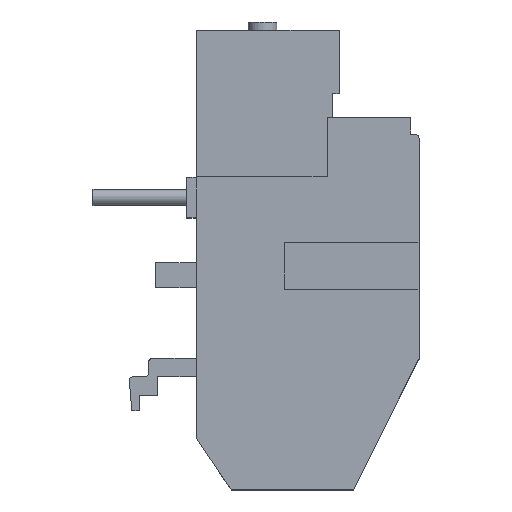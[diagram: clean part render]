
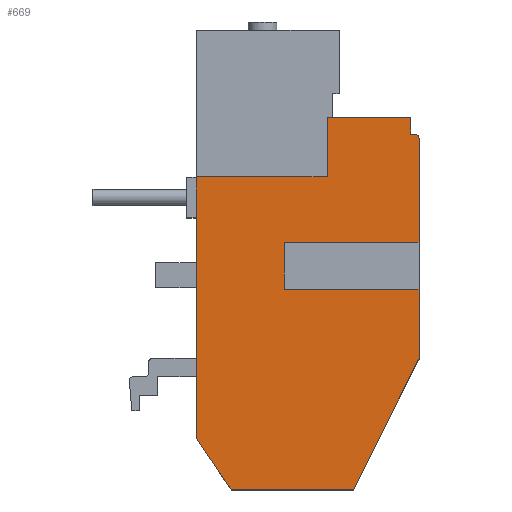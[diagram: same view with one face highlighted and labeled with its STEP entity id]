
A CAD part, top view. The second image highlights one B-rep face of the part: STEP entity #669.
In plain terms, the highlighted planar face has unit normal (0, 0, 1).
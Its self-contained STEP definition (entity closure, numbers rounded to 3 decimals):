
#19 = VERTEX_POINT ( 'NONE', #272 ) ;
#87 = VERTEX_POINT ( 'NONE', #340 ) ;
#132 = VERTEX_POINT ( 'NONE', #385 ) ;
#137 = VERTEX_POINT ( 'NONE', #390 ) ;
#174 = VERTEX_POINT ( 'NONE', #427 ) ;
#186 = VERTEX_POINT ( 'NONE', #439 ) ;
#199 = VERTEX_POINT ( 'NONE', #452 ) ;
#217 = VERTEX_POINT ( 'NONE', #470 ) ;
#229 = VERTEX_POINT ( 'NONE', #482 ) ;
#232 = VERTEX_POINT ( 'NONE', #485 ) ;
#272 = CARTESIAN_POINT ( 'NONE',  ( 0., -36., 70. ) ) ;
#340 = CARTESIAN_POINT ( 'NONE',  ( 0., -100., 70. ) ) ;
#385 = CARTESIAN_POINT ( 'NONE',  ( 8.5, -112.5, 70. ) ) ;
#390 = CARTESIAN_POINT ( 'NONE',  ( 38.5, -112.5, 70. ) ) ;
#427 = CARTESIAN_POINT ( 'NONE',  ( 52.5, -21.5, 70. ) ) ;
#439 = CARTESIAN_POINT ( 'NONE',  ( 32., -21.5, 70. ) ) ;
#452 = CARTESIAN_POINT ( 'NONE',  ( 54.5, -63.5, 70. ) ) ;
#470 = CARTESIAN_POINT ( 'NONE',  ( 54.5, -80.5, 70. ) ) ;
#482 = CARTESIAN_POINT ( 'NONE',  ( 54.5, -52., 70. ) ) ;
#485 = CARTESIAN_POINT ( 'NONE',  ( 54.5, -26.5, 70. ) ) ;
#578 = EDGE_CURVE ( 'NONE', #19, #87, #3257, .T. ) ;
#611 = EDGE_CURVE ( 'NONE', #132, #137, #3321, .T. ) ;
#669 = ADVANCED_FACE ( 'NONE', ( #3436 ), #3936, .T. ) ;
#728 = VERTEX_POINT ( 'NONE', #4304 ) ;
#729 = VERTEX_POINT ( 'NONE', #4310 ) ;
#730 = VERTEX_POINT ( 'NONE', #4311 ) ;
#731 = VERTEX_POINT ( 'NONE', #4312 ) ;
#732 = VERTEX_POINT ( 'NONE', #4313 ) ;
#997 = EDGE_LOOP ( 'NONE', ( #1447, #1448, #1449, #1450, #1451, #1452, #1453, #1454, #1455, #1456, #1457, #1458, #1459, #1460, #1461 ) ) ;
#1447 = ORIENTED_EDGE ( 'NONE', *, *, #1748, .T. ) ;
#1448 = ORIENTED_EDGE ( 'NONE', *, *, #1785, .T. ) ;
#1449 = ORIENTED_EDGE ( 'NONE', *, *, #1786, .F. ) ;
#1450 = ORIENTED_EDGE ( 'NONE', *, *, #1787, .F. ) ;
#1451 = ORIENTED_EDGE ( 'NONE', *, *, #1625, .T. ) ;
#1452 = ORIENTED_EDGE ( 'NONE', *, *, #1788, .F. ) ;
#1453 = ORIENTED_EDGE ( 'NONE', *, *, #1789, .T. ) ;
#1454 = ORIENTED_EDGE ( 'NONE', *, *, #578, .T. ) ;
#1455 = ORIENTED_EDGE ( 'NONE', *, *, #1661, .T. ) ;
#1456 = ORIENTED_EDGE ( 'NONE', *, *, #611, .T. ) ;
#1457 = ORIENTED_EDGE ( 'NONE', *, *, #1733, .T. ) ;
#1458 = ORIENTED_EDGE ( 'NONE', *, *, #1752, .T. ) ;
#1459 = ORIENTED_EDGE ( 'NONE', *, *, #1790, .F. ) ;
#1460 = ORIENTED_EDGE ( 'NONE', *, *, #1791, .F. ) ;
#1461 = ORIENTED_EDGE ( 'NONE', *, *, #1792, .T. ) ;
#1625 = EDGE_CURVE ( 'NONE', #174, #186, #4766, .T. ) ;
#1661 = EDGE_CURVE ( 'NONE', #87, #132, #4832, .T. ) ;
#1733 = EDGE_CURVE ( 'NONE', #137, #217, #4951, .T. ) ;
#1748 = EDGE_CURVE ( 'NONE', #229, #232, #4981, .T. ) ;
#1752 = EDGE_CURVE ( 'NONE', #217, #199, #4987, .T. ) ;
#1785 = EDGE_CURVE ( 'NONE', #232, #728, #5051, .T. ) ;
#1786 = EDGE_CURVE ( 'NONE', #731, #728, #5053, .T. ) ;
#1787 = EDGE_CURVE ( 'NONE', #174, #731, #5049, .T. ) ;
#1788 = EDGE_CURVE ( 'NONE', #730, #186, #5056, .T. ) ;
#1789 = EDGE_CURVE ( 'NONE', #730, #19, #5054, .T. ) ;
#1790 = EDGE_CURVE ( 'NONE', #732, #199, #5060, .T. ) ;
#1791 = EDGE_CURVE ( 'NONE', #729, #732, #5062, .T. ) ;
#1792 = EDGE_CURVE ( 'NONE', #729, #229, #5058, .T. ) ;
#2643 = AXIS2_PLACEMENT_3D ( 'NONE', #3933, #3938, #3939 ) ;
#3257 = LINE ( 'NONE', #3684, #3262 ) ;
#3262 = VECTOR ( 'NONE', #3689, 1000. ) ;
#3321 = LINE ( 'NONE', #3746, #3328 ) ;
#3328 = VECTOR ( 'NONE', #3753, 1000. ) ;
#3436 = FACE_OUTER_BOUND ( 'NONE', #997, .T. ) ;
#3684 = CARTESIAN_POINT ( 'NONE',  ( 0., 0., 70. ) ) ;
#3689 = DIRECTION ( 'NONE',  ( 0., -1., 0. ) ) ;
#3746 = CARTESIAN_POINT ( 'NONE',  ( 8.5, -112.5, 70. ) ) ;
#3753 = DIRECTION ( 'NONE',  ( 1., 0., 0. ) ) ;
#3933 = CARTESIAN_POINT ( 'NONE',  ( 0., 0., 70. ) ) ;
#3936 = PLANE ( 'NONE',  #2643 ) ;
#3938 = DIRECTION ( 'NONE',  ( 0., 0., 1. ) ) ;
#3939 = DIRECTION ( 'NONE',  ( 1., 0., 0. ) ) ;
#4141 = AXIS2_PLACEMENT_3D ( 'NONE', #5492, #5493, #5494 ) ;
#4304 = CARTESIAN_POINT ( 'NONE',  ( 53.5, -25.5, 70. ) ) ;
#4310 = CARTESIAN_POINT ( 'NONE',  ( 21.5, -52., 70. ) ) ;
#4311 = CARTESIAN_POINT ( 'NONE',  ( 32., -36., 70. ) ) ;
#4312 = CARTESIAN_POINT ( 'NONE',  ( 52.5, -25.5, 70. ) ) ;
#4313 = CARTESIAN_POINT ( 'NONE',  ( 21.5, -63.5, 70. ) ) ;
#4550 = CARTESIAN_POINT ( 'NONE',  ( 54.5, -21.5, 70. ) ) ;
#4551 = DIRECTION ( 'NONE',  ( -1., 0., 0. ) ) ;
#4628 = CARTESIAN_POINT ( 'NONE',  ( 0., -100., 70. ) ) ;
#4629 = DIRECTION ( 'NONE',  ( 0.562, -0.827, 0. ) ) ;
#4766 = LINE ( 'NONE', #4550, #4769 ) ;
#4769 = VECTOR ( 'NONE', #4551, 1000. ) ;
#4832 = LINE ( 'NONE', #4628, #4835 ) ;
#4835 = VECTOR ( 'NONE', #4629, 1000. ) ;
#4951 = LINE ( 'NONE', #5382, #4954 ) ;
#4954 = VECTOR ( 'NONE', #5383, 1000. ) ;
#4981 = LINE ( 'NONE', #5412, #4984 ) ;
#4984 = VECTOR ( 'NONE', #5413, 1000. ) ;
#4987 = LINE ( 'NONE', #5415, #4992 ) ;
#4992 = VECTOR ( 'NONE', #5421, 1000. ) ;
#5049 = LINE ( 'NONE', #5491, #5057 ) ;
#5051 = CIRCLE ( 'NONE', #4141, 1. ) ;
#5053 = LINE ( 'NONE', #5488, #5055 ) ;
#5054 = LINE ( 'NONE', #5490, #5061 ) ;
#5055 = VECTOR ( 'NONE', #5486, 1000. ) ;
#5056 = LINE ( 'NONE', #5497, #5059 ) ;
#5057 = VECTOR ( 'NONE', #5496, 1000. ) ;
#5058 = LINE ( 'NONE', #5495, #5067 ) ;
#5059 = VECTOR ( 'NONE', #5498, 1000. ) ;
#5060 = LINE ( 'NONE', #5500, #5063 ) ;
#5061 = VECTOR ( 'NONE', #5499, 1000. ) ;
#5062 = LINE ( 'NONE', #5502, #5065 ) ;
#5063 = VECTOR ( 'NONE', #5501, 1000. ) ;
#5065 = VECTOR ( 'NONE', #5504, 1000. ) ;
#5067 = VECTOR ( 'NONE', #5505, 1000. ) ;
#5382 = CARTESIAN_POINT ( 'NONE',  ( 38.5, -112.5, 70. ) ) ;
#5383 = DIRECTION ( 'NONE',  ( 0.447, 0.894, 0. ) ) ;
#5412 = CARTESIAN_POINT ( 'NONE',  ( 54.5, -80.5, 70. ) ) ;
#5413 = DIRECTION ( 'NONE',  ( 0., 1., 0. ) ) ;
#5415 = CARTESIAN_POINT ( 'NONE',  ( 54.5, -80.5, 70. ) ) ;
#5421 = DIRECTION ( 'NONE',  ( 0., 1., 0. ) ) ;
#5486 = DIRECTION ( 'NONE',  ( 1., 0., 0. ) ) ;
#5488 = CARTESIAN_POINT ( 'NONE',  ( 52.5, -25.5, 70. ) ) ;
#5490 = CARTESIAN_POINT ( 'NONE',  ( 32., -36., 70. ) ) ;
#5491 = CARTESIAN_POINT ( 'NONE',  ( 52.5, -21.5, 70. ) ) ;
#5492 = CARTESIAN_POINT ( 'NONE',  ( 53.5, -26.5, 70. ) ) ;
#5493 = DIRECTION ( 'NONE',  ( 0., 0., 1. ) ) ;
#5494 = DIRECTION ( 'NONE',  ( 1., 0., 0. ) ) ;
#5495 = CARTESIAN_POINT ( 'NONE',  ( 21.5, -52., 70. ) ) ;
#5496 = DIRECTION ( 'NONE',  ( 0., -1., 0. ) ) ;
#5497 = CARTESIAN_POINT ( 'NONE',  ( 32., 0., 70. ) ) ;
#5498 = DIRECTION ( 'NONE',  ( 0., 1., 0. ) ) ;
#5499 = DIRECTION ( 'NONE',  ( -1., 0., 0. ) ) ;
#5500 = CARTESIAN_POINT ( 'NONE',  ( 21.5, -63.5, 70. ) ) ;
#5501 = DIRECTION ( 'NONE',  ( 1., 0., 0. ) ) ;
#5502 = CARTESIAN_POINT ( 'NONE',  ( 21.5, -63.5, 70. ) ) ;
#5504 = DIRECTION ( 'NONE',  ( 0., -1., 0. ) ) ;
#5505 = DIRECTION ( 'NONE',  ( 1., 0., 0. ) ) ;
